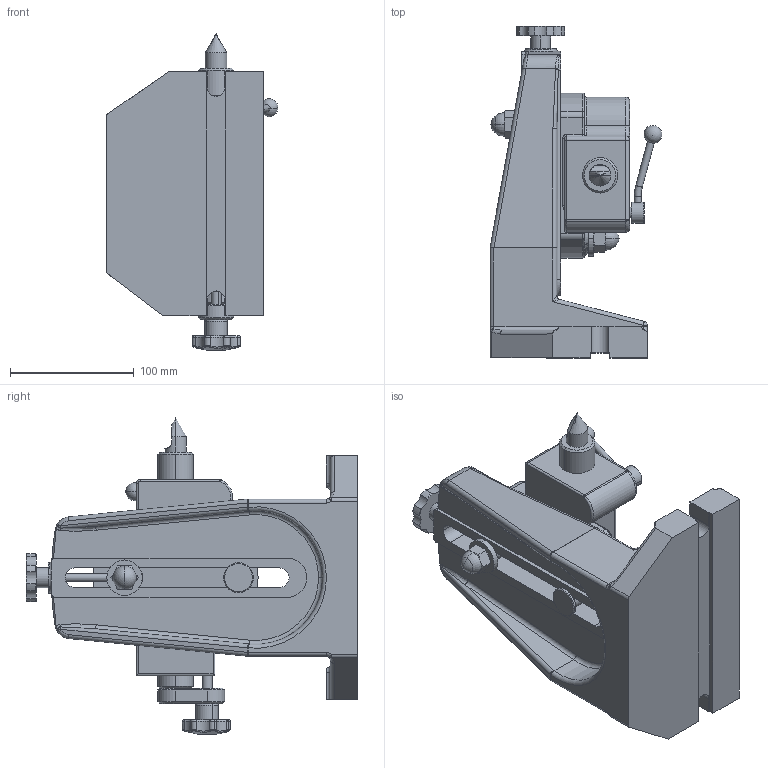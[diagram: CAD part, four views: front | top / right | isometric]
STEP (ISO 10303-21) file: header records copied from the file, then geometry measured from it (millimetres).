
FILE_DESCRIPTION (( 'STEP AP214' ), '1' );
FILE_NAME ('30197 TALL TAILSTOCK.STEP', '2014-02-24T14:56:43', ( '' ), ( '' ), 'SwSTEP 2.0', 'SolidWorks 2012', '' );
FILE_SCHEMA (( 'AUTOMOTIVE_DESIGN' ));
Length unit declared in the file: millimetre
Products named in the file (11): 30197 HANDLE WITH STUD_6875K312; 30197 TOP KNOB_60965K52; 30197 HAND KNOB_3855K681; 30197 50-13 ACORN NUT_91875A170; 30197 50 THICK WASHER_98125A033; 30197 PIVOT PIN; 30197 LOWER PIN; 30197 TAILSTOCK CENTER; 30197 TAILSTOCK SLIDE; 30197 TAILSTOCK BASE; 30197 TALL TAILSTOCK
Assembly tree (12 placements, depth 2):
  30197 TALL TAILSTOCK
    30197 TAILSTOCK BASE
    30197 TAILSTOCK SLIDE
    30197 TAILSTOCK CENTER
    30197 LOWER PIN
    30197 PIVOT PIN
    30197 50 THICK WASHER_98125A033  x2
    30197 50-13 ACORN NUT_91875A170  x2
    30197 HAND KNOB_3855K681
    30197 TOP KNOB_60965K52
    30197 HANDLE WITH STUD_6875K312
Bounding box: 138.88 x 268 x 255.53 mm (x, y, z)
Volume: 2095881.3 mm3; surface area: 276790.6 mm2
Topology: 12 solids, 12 shells, 543 faces, 1281 edges, 755 vertices
Faces by surface type: cylinder 213, plane 109, torus 80, cone 70, bspline 44, sphere 27
Entity records: 19188 total; most frequent: CARTESIAN_POINT 5825, DIRECTION 2579, ORIENTED_EDGE 2386, EDGE_CURVE 1193, AXIS2_PLACEMENT_3D 1083, VERTEX_POINT 714, CIRCLE 600, EDGE_LOOP 535
